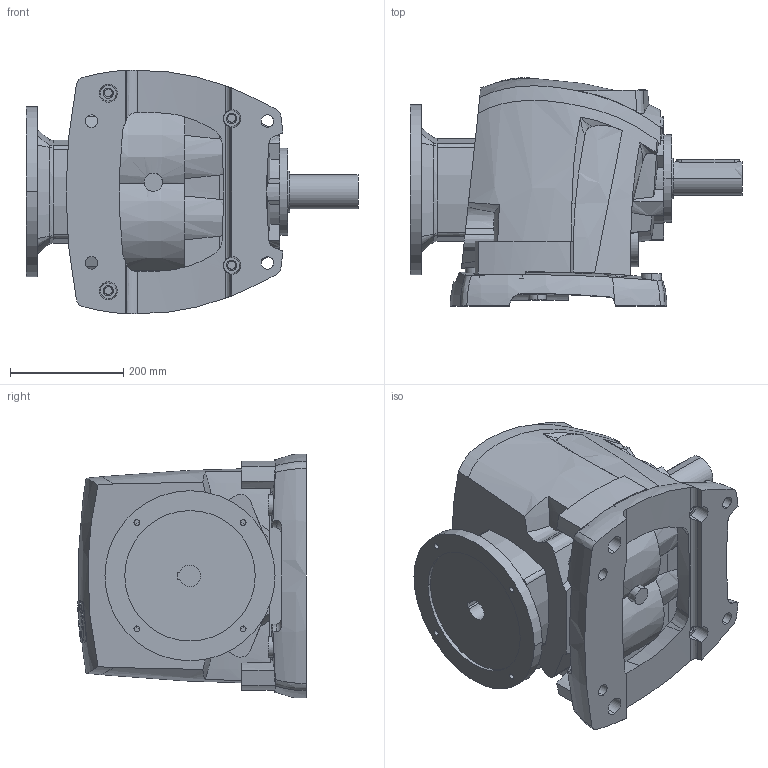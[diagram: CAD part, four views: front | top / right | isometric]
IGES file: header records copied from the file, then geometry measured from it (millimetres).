
Start section:  PTC IGES file: r60_sw_pam132.igs
Global section: file name: r60_sw_pam132.igs; native system: Pro/ENGINEER by Parametric Technology Corporation; preprocessor: 2008230; author: Luca; organization: Unknown; date: 20131222.191823; units: millimetre
Bounding box: 585.5 x 402.94 x 429.76 mm (x, y, z)
Volume: 43968044.8 mm3; surface area: 1188528.8 mm2
Topology: 1 solids, 2 shells, 528 faces, 1468 edges, 979 vertices
Faces by surface type: bspline 273, revolution 252, extrusion 3
